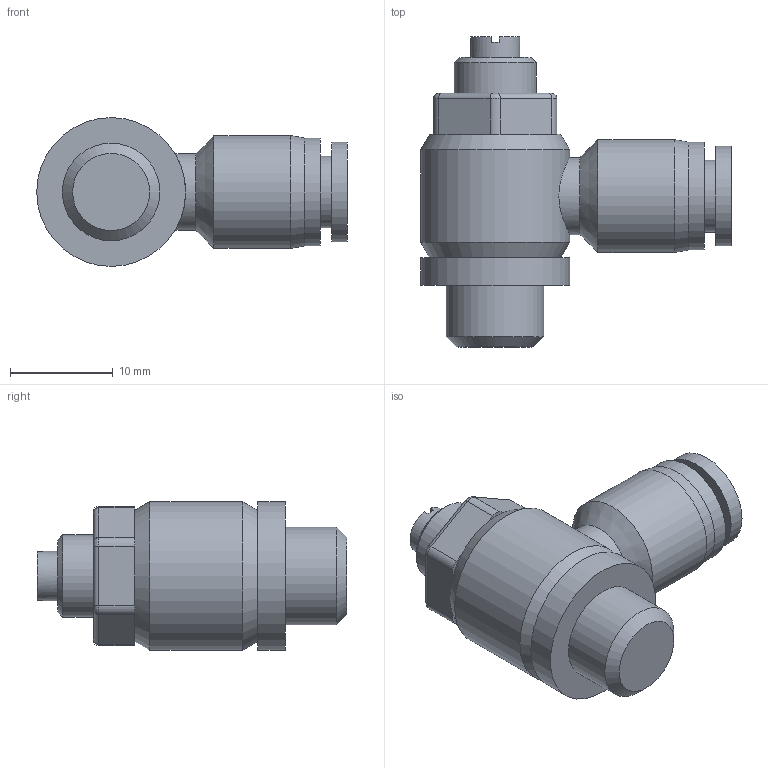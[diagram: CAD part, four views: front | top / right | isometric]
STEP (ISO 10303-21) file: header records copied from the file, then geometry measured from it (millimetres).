
FILE_DESCRIPTION((''),'2;1');
FILE_NAME('S:\UTecnico\ArchivioUT\Speciali Clienti\Speciali KONFIT\Plastica\DP\DP 79\DP79C1804.stp','2012-05-18T11:29:12',('UT5'),(''),'Autodesk Inventor 2012','Autodesk Inventor 2012','');
FILE_SCHEMA(('AUTOMOTIVE_DESIGN { 1 0 10303 214 1 1 1 1 }'));
Length unit declared in the file: millimetre
Products named in the file (1): DP79C1804
Bounding box: 30.25 x 30.2 x 14.5 mm (x, y, z)
Volume: 4485.3 mm3; surface area: 2383.4 mm2
Topology: 1 solids, 1 shells, 67 faces, 145 edges, 86 vertices
Faces by surface type: plane 31, cylinder 23, cone 7, bspline 6
Full cylindrical faces by diameter (mm): 4 x1, 4.8 x1, 7 x1, 7.5 x1, 8 x1, 9.5 x1, 9.7 x1, 10.5 x1, 11 x1, 14.5 x2
Entity records: 1886 total; most frequent: CARTESIAN_POINT 461, DIRECTION 312, ORIENTED_EDGE 240, AXIS2_PLACEMENT_3D 131, EDGE_CURVE 120, EDGE_LOOP 92, VERTEX_POINT 80, CIRCLE 69
